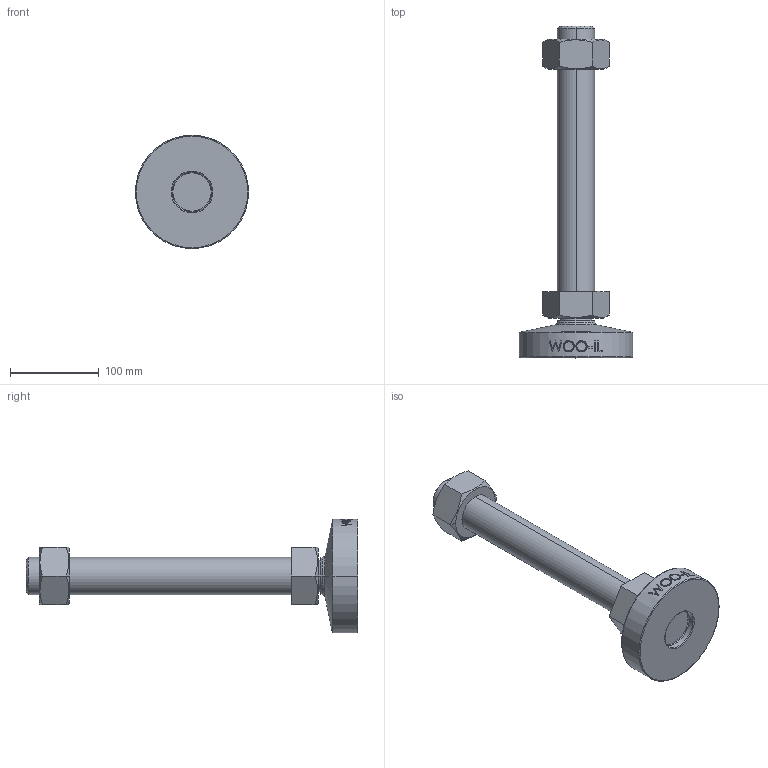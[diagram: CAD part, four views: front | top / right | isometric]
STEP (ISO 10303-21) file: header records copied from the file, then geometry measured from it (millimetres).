
FILE_DESCRIPTION (( 'STEP AP214' ), '1' );
FILE_NAME ('MFN128-M42-300.step', '2021-03-29T07:34:55', ( '' ), ( '' ), 'SwSTEP 2.0', 'SolidWorks 2019', '' );
FILE_SCHEMA (( 'AUTOMOTIVE_DESIGN' ));
Length unit declared in the file: millimetre
Products named in the file (2): MFN128-M42-300
Bounding box: 128 x 375 x 128 mm (x, y, z)
Volume: 1023944.8 mm3; surface area: 106437 mm2
Topology: 2 solids, 2 shells, 107 faces, 247 edges, 156 vertices
Faces by surface type: plane 47, cone 18, cylinder 16, bspline 16, torus 8, sphere 2
Entity records: 4761 total; most frequent: CARTESIAN_POINT 2394, ORIENTED_EDGE 494, DIRECTION 447, EDGE_CURVE 247, AXIS2_PLACEMENT_3D 173, VERTEX_POINT 156, EDGE_LOOP 121, ADVANCED_FACE 107
